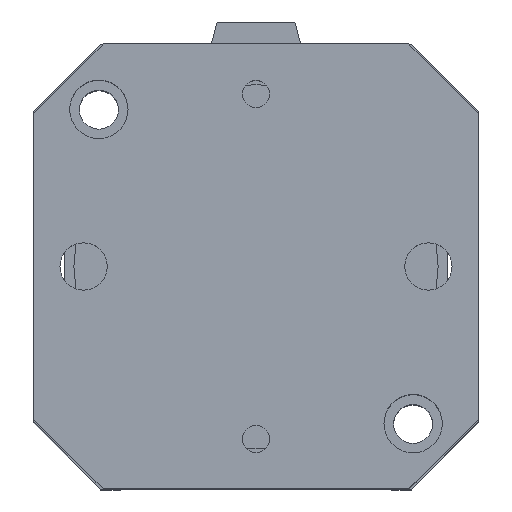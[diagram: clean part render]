
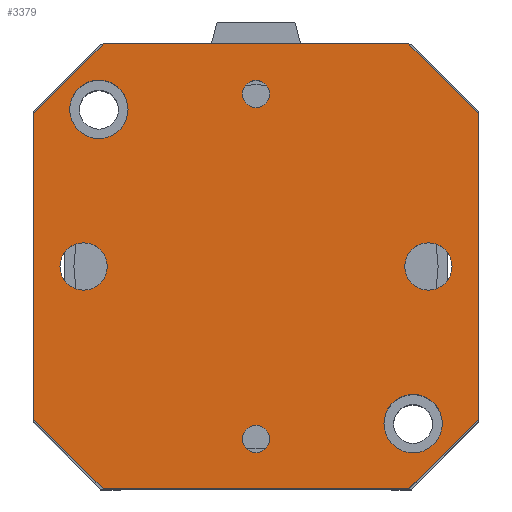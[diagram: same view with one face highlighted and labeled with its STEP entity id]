
A CAD part, top view. The second image highlights one B-rep face of the part: STEP entity #3379.
In plain terms, the highlighted planar face has unit normal (0, 0, 1).
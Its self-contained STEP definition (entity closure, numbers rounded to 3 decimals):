
#265=LINE('',#5630,#519);
#267=LINE('',#5634,#521);
#269=LINE('',#5638,#523);
#271=LINE('',#5642,#525);
#273=LINE('',#5646,#527);
#275=LINE('',#5650,#529);
#277=LINE('',#5654,#531);
#279=LINE('',#5657,#533);
#519=VECTOR('',#4681,55.);
#521=VECTOR('',#4685,17.678);
#523=VECTOR('',#4689,55.);
#525=VECTOR('',#4693,17.678);
#527=VECTOR('',#4697,55.);
#529=VECTOR('',#4701,17.678);
#531=VECTOR('',#4705,55.);
#533=VECTOR('',#4709,17.678);
#627=PLANE('',#3743);
#716=FACE_BOUND('',#1138,.T.);
#717=FACE_BOUND('',#1139,.T.);
#718=FACE_BOUND('',#1140,.T.);
#719=FACE_BOUND('',#1141,.T.);
#720=FACE_BOUND('',#1142,.T.);
#721=FACE_BOUND('',#1143,.T.);
#722=FACE_BOUND('',#1144,.T.);
#1138=EDGE_LOOP('',(#2914));
#1139=EDGE_LOOP('',(#2915));
#1140=EDGE_LOOP('',(#2916));
#1141=EDGE_LOOP('',(#2917));
#1142=EDGE_LOOP('',(#2918));
#1143=EDGE_LOOP('',(#2919));
#1144=EDGE_LOOP('',(#2920,#2921,#2922,#2923,#2924,#2925,#2926,#2927));
#1309=CIRCLE('',#3699,2.459);
#1311=CIRCLE('',#3702,2.459);
#1316=CIRCLE('',#3710,4.25);
#1320=CIRCLE('',#3717,4.25);
#1329=CIRCLE('',#3732,5.25);
#1330=CIRCLE('',#3734,5.25);
#1601=VERTEX_POINT('',#5548);
#1603=VERTEX_POINT('',#5553);
#1608=VERTEX_POINT('',#5566);
#1612=VERTEX_POINT('',#5577);
#1631=VERTEX_POINT('',#5621);
#1632=VERTEX_POINT('',#5624);
#1633=VERTEX_POINT('',#5627);
#1634=VERTEX_POINT('',#5629);
#1635=VERTEX_POINT('',#5633);
#1636=VERTEX_POINT('',#5637);
#1637=VERTEX_POINT('',#5641);
#1638=VERTEX_POINT('',#5645);
#1639=VERTEX_POINT('',#5649);
#1640=VERTEX_POINT('',#5653);
#2025=EDGE_CURVE('',#1601,#1601,#1309,.T.);
#2027=EDGE_CURVE('',#1603,#1603,#1311,.T.);
#2032=EDGE_CURVE('',#1608,#1608,#1316,.T.);
#2036=EDGE_CURVE('',#1612,#1612,#1320,.T.);
#2055=EDGE_CURVE('',#1631,#1631,#1329,.T.);
#2056=EDGE_CURVE('',#1632,#1632,#1330,.T.);
#2058=EDGE_CURVE('',#1634,#1633,#265,.T.);
#2060=EDGE_CURVE('',#1635,#1634,#267,.T.);
#2062=EDGE_CURVE('',#1636,#1635,#269,.T.);
#2064=EDGE_CURVE('',#1637,#1636,#271,.T.);
#2066=EDGE_CURVE('',#1638,#1637,#273,.T.);
#2068=EDGE_CURVE('',#1639,#1638,#275,.T.);
#2070=EDGE_CURVE('',#1640,#1639,#277,.T.);
#2072=EDGE_CURVE('',#1633,#1640,#279,.T.);
#2914=ORIENTED_EDGE('',*,*,#2025,.T.);
#2915=ORIENTED_EDGE('',*,*,#2027,.T.);
#2916=ORIENTED_EDGE('',*,*,#2032,.T.);
#2917=ORIENTED_EDGE('',*,*,#2036,.T.);
#2918=ORIENTED_EDGE('',*,*,#2055,.T.);
#2919=ORIENTED_EDGE('',*,*,#2056,.T.);
#2920=ORIENTED_EDGE('',*,*,#2072,.T.);
#2921=ORIENTED_EDGE('',*,*,#2070,.T.);
#2922=ORIENTED_EDGE('',*,*,#2068,.T.);
#2923=ORIENTED_EDGE('',*,*,#2066,.T.);
#2924=ORIENTED_EDGE('',*,*,#2064,.T.);
#2925=ORIENTED_EDGE('',*,*,#2062,.T.);
#2926=ORIENTED_EDGE('',*,*,#2060,.T.);
#2927=ORIENTED_EDGE('',*,*,#2058,.T.);
#3379=ADVANCED_FACE('',(#716,#717,#718,#719,#720,#721,#722),#627,.T.);
#3699=AXIS2_PLACEMENT_3D('',#5549,#4596,#4597);
#3702=AXIS2_PLACEMENT_3D('',#5554,#4602,#4603);
#3710=AXIS2_PLACEMENT_3D('',#5567,#4618,#4619);
#3717=AXIS2_PLACEMENT_3D('',#5578,#4632,#4633);
#3732=AXIS2_PLACEMENT_3D('',#5622,#4672,#4673);
#3734=AXIS2_PLACEMENT_3D('',#5625,#4676,#4677);
#3743=AXIS2_PLACEMENT_3D('',#5658,#4710,#4711);
#4596=DIRECTION('center_axis',(0.,0.,-1.));
#4597=DIRECTION('ref_axis',(1.,0.,0.));
#4602=DIRECTION('center_axis',(0.,0.,-1.));
#4603=DIRECTION('ref_axis',(1.,0.,0.));
#4618=DIRECTION('center_axis',(0.,0.,-1.));
#4619=DIRECTION('ref_axis',(1.,0.,0.));
#4632=DIRECTION('center_axis',(0.,0.,-1.));
#4633=DIRECTION('ref_axis',(1.,0.,0.));
#4672=DIRECTION('center_axis',(0.,0.,-1.));
#4673=DIRECTION('ref_axis',(-1.,0.,0.));
#4676=DIRECTION('center_axis',(0.,0.,-1.));
#4677=DIRECTION('ref_axis',(-1.,0.,0.));
#4681=DIRECTION('',(0.,1.,0.));
#4685=DIRECTION('',(0.707,0.707,0.));
#4689=DIRECTION('',(1.,0.,0.));
#4693=DIRECTION('',(0.707,-0.707,0.));
#4697=DIRECTION('',(0.,-1.,0.));
#4701=DIRECTION('',(-0.707,-0.707,0.));
#4705=DIRECTION('',(-1.,0.,0.));
#4709=DIRECTION('',(-0.707,0.707,0.));
#4710=DIRECTION('center_axis',(0.,0.,1.));
#4711=DIRECTION('ref_axis',(1.,0.,0.));
#5548=CARTESIAN_POINT('',(-33.459,0.,82.25));
#5549=CARTESIAN_POINT('Origin',(-31.,0.,82.25));
#5553=CARTESIAN_POINT('',(28.542,0.,82.25));
#5554=CARTESIAN_POINT('Origin',(31.,0.,82.25));
#5566=CARTESIAN_POINT('',(-4.25,31.,82.25));
#5567=CARTESIAN_POINT('Origin',(0.,31.,82.25));
#5577=CARTESIAN_POINT('',(-4.25,-31.,82.25));
#5578=CARTESIAN_POINT('Origin',(0.,-31.,82.25));
#5621=CARTESIAN_POINT('',(-23.,-28.25,82.25));
#5622=CARTESIAN_POINT('Origin',(-28.25,-28.25,82.25));
#5624=CARTESIAN_POINT('',(33.5,28.25,82.25));
#5625=CARTESIAN_POINT('Origin',(28.25,28.25,82.25));
#5627=CARTESIAN_POINT('',(40.,27.5,82.25));
#5629=CARTESIAN_POINT('',(40.,-27.5,82.25));
#5630=CARTESIAN_POINT('',(40.,27.5,82.25));
#5633=CARTESIAN_POINT('',(27.5,-40.,82.25));
#5634=CARTESIAN_POINT('',(40.,-27.5,82.25));
#5637=CARTESIAN_POINT('',(-27.5,-40.,82.25));
#5638=CARTESIAN_POINT('',(27.5,-40.,82.25));
#5641=CARTESIAN_POINT('',(-40.,-27.5,82.25));
#5642=CARTESIAN_POINT('',(-27.5,-40.,82.25));
#5645=CARTESIAN_POINT('',(-40.,27.5,82.25));
#5646=CARTESIAN_POINT('',(-40.,-27.5,82.25));
#5649=CARTESIAN_POINT('',(-27.5,40.,82.25));
#5650=CARTESIAN_POINT('',(-40.,27.5,82.25));
#5653=CARTESIAN_POINT('',(27.5,40.,82.25));
#5654=CARTESIAN_POINT('',(-27.5,40.,82.25));
#5657=CARTESIAN_POINT('',(27.5,40.,82.25));
#5658=CARTESIAN_POINT('Origin',(0.,0.,
82.25));
